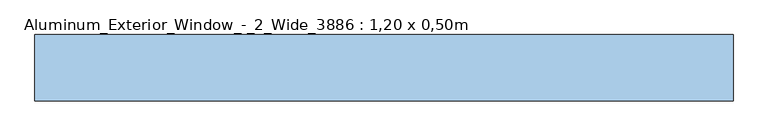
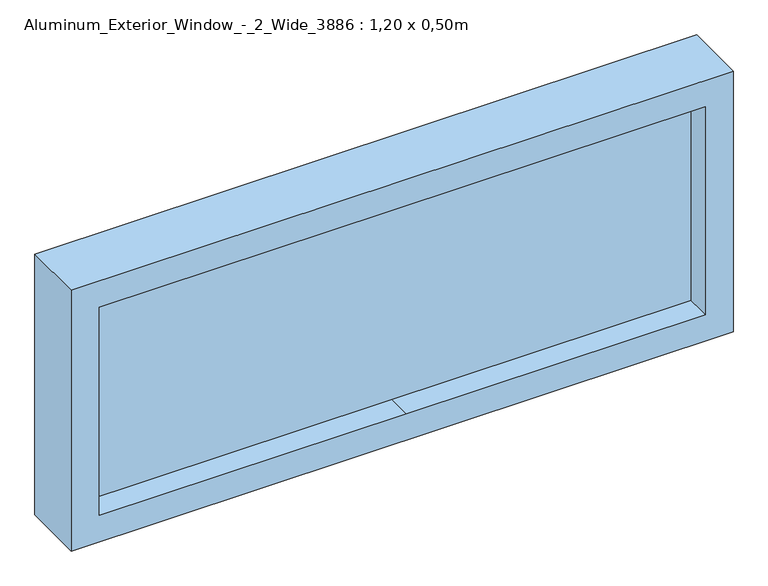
"""IFC4 building model written with IfcOpenShell, lengths in millimetres: window geometry, Aluminum_Exterior_Window_-_2_Wide_3886 : 1,20 x 0,50m."""

from ifc_helpers import new_model, si_unit, frame, origin, place, context, project, spatial, polyline, outline, extrude, source, transform, mapped, element, save


def aluminum_exterior_window_2_wide_3886_1_20_x_0_50m_2c522d7e(model_context):
    return source(origin(), model_context, "Body", "SweptSolid", [
        extrude(outline(polyline([(1560.0, -1371.6), (1060.0, -1371.6), (1060.0, -171.6), (1560.0, -171.6), (1560.0, -1371.6)]), holes=[polyline([(1509.2, -797.0), (1509.2, -222.4), (1110.8, -222.4), (1110.8, -763.8808837), (1110.8, -1320.8), (1509.2, -1320.8), (1509.2, -797.0)])]), frame((0.0, -38.1424754, 0.0), z_axis=(0.0, 1.0, 0.0), x_axis=(0.0, 0.0, 1.0)), (0.0, 0.0, 1.0), 114.3),
        extrude(outline(polyline([(1509.2, -797.0), (1509.2, -1320.8), (1110.8, -1320.8), (1110.8, -770.891469), (1110.8, -222.4), (1509.2, -222.4), (1509.2, -797.0)])), frame((0.0, 6.3075246, 0.0), z_axis=(0.0, 1.0, 0.0), x_axis=(0.0, 0.0, 1.0)), (0.0, 0.0, 1.0), 25.4),
    ])


if __name__ == "__main__":
    model = new_model("IFC4")
    model_context = context("Model", 3, world=origin())
    ifc_project = project(units=[si_unit("LENGTHUNIT", "METRE", prefix="MILLI")], contexts=[model_context])
    site = spatial("IfcSite", under=ifc_project)
    building = spatial("IfcBuilding", under=site)
    placement = place(None, origin())
    aluminum_exterior_window_2_wide_3886_1_20_x_0_50m_shape = aluminum_exterior_window_2_wide_3886_1_20_x_0_50m_2c522d7e(model_context)
    element("IfcWindow", 1, ObjectType="Aluminum_Exterior_Window_-_2_Wide_3886 : 1,20 x 0,50m", at=placement, inside=building, context=model_context, shape_type="MappedRepresentation", body=[
        mapped(aluminum_exterior_window_2_wide_3886_1_20_x_0_50m_shape, transform((0.0, 0.0, 0.0), x_axis=(1.0, 0.0, 0.0), y_axis=(0.0, 1.0, 0.0), z_axis=(0.0, 0.0, 1.0))),
    ])
    save(model, "model.ifc")
